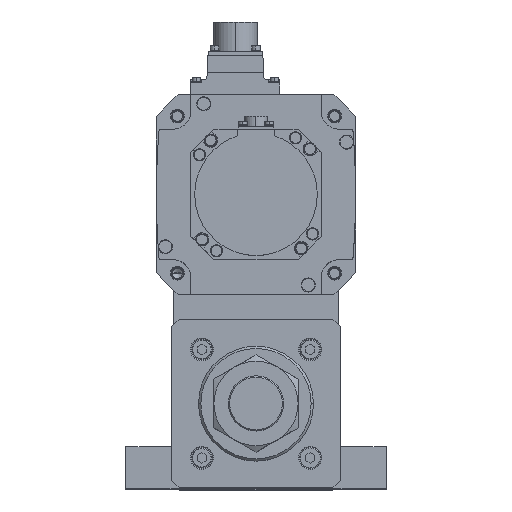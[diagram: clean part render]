
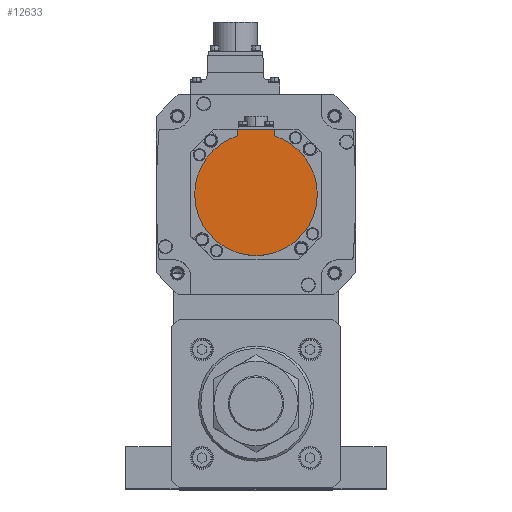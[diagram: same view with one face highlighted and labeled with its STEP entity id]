
A CAD part, top view. The second image highlights one B-rep face of the part: STEP entity #12633.
In plain terms, the highlighted planar face has unit normal (0, 0, 1) as drawn and (0, 0, -1) by its records, which use the part's own axes.
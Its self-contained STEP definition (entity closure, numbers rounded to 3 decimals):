
#270 = CARTESIAN_POINT ( 'NONE',  ( 12., -38.158, -132.5 ) ) ;
#499 = CARTESIAN_POINT ( 'NONE',  ( 0., 0., -132.5 ) ) ;
#2080 = EDGE_CURVE ( 'NONE', #3330, #23565, #5886, .T. ) ;
#2469 = CARTESIAN_POINT ( 'NONE',  ( 0., -42.5, -132.5 ) ) ;
#2696 = ORIENTED_EDGE ( 'NONE', *, *, #14316, .T. ) ;
#2905 = CARTESIAN_POINT ( 'NONE',  ( 40., 0., -132.5 ) ) ;
#3330 = VERTEX_POINT ( 'NONE', #25511 ) ;
#3530 = ORIENTED_EDGE ( 'NONE', *, *, #14489, .F. ) ;
#3909 = CARTESIAN_POINT ( 'NONE',  ( 0., -1.249, -132.5 ) ) ;
#5497 = AXIS2_PLACEMENT_3D ( 'NONE', #31799, #28398, #34623 ) ;
#5886 = LINE ( 'NONE', #2469, #33707 ) ;
#5895 = DIRECTION ( 'NONE',  ( 1., 0., 0. ) ) ;
#6402 = DIRECTION ( 'NONE',  ( 1., 0., 0. ) ) ;
#7009 = AXIS2_PLACEMENT_3D ( 'NONE', #499, #29822, #5895 ) ;
#7140 = CARTESIAN_POINT ( 'NONE',  ( -12., -38.158, -132.5 ) ) ;
#7166 = VECTOR ( 'NONE', #14322, 1000. ) ;
#7675 = ORIENTED_EDGE ( 'NONE', *, *, #27850, .F. ) ;
#8123 = FACE_OUTER_BOUND ( 'NONE', #10089, .T. ) ;
#8606 = VERTEX_POINT ( 'NONE', #7140 ) ;
#9613 = CARTESIAN_POINT ( 'NONE',  ( 12., -1.249, -132.5 ) ) ;
#9690 = LINE ( 'NONE', #17373, #7166 ) ;
#10089 = EDGE_LOOP ( 'NONE', ( #2696, #3530, #28453, #12010, #7675, #31526 ) ) ;
#12010 = ORIENTED_EDGE ( 'NONE', *, *, #14224, .F. ) ;
#12633 = ADVANCED_FACE ( 'NONE', ( #8123 ), #19964, .F. ) ;
#14224 = EDGE_CURVE ( 'NONE', #33294, #32775, #19409, .T. ) ;
#14316 = EDGE_CURVE ( 'NONE', #23565, #8606, #9690, .T. ) ;
#14322 = DIRECTION ( 'NONE',  ( 0., 1., 0. ) ) ;
#14489 = EDGE_CURVE ( 'NONE', #34765, #8606, #19860, .T. ) ;
#15333 = DIRECTION ( 'NONE',  ( 0., 1., 0. ) ) ;
#16102 = AXIS2_PLACEMENT_3D ( 'NONE', #33687, #31098, #17952 ) ;
#17373 = CARTESIAN_POINT ( 'NONE',  ( -12., -40.329, -132.5 ) ) ;
#17408 = EDGE_CURVE ( 'NONE', #32775, #34765, #22591, .T. ) ;
#17952 = DIRECTION ( 'NONE',  ( 1., 0., 0. ) ) ;
#19409 = CIRCLE ( 'NONE', #7009, 40. ) ;
#19860 = CIRCLE ( 'NONE', #16102, 40. ) ;
#19964 = PLANE ( 'NONE',  #30225 ) ;
#21199 = DIRECTION ( 'NONE',  ( -1., 0., 0. ) ) ;
#21235 = LINE ( 'NONE', #9613, #34284 ) ;
#22017 = CARTESIAN_POINT ( 'NONE',  ( -12., -42.5, -132.5 ) ) ;
#22591 = CIRCLE ( 'NONE', #5497, 40. ) ;
#22674 = DIRECTION ( 'NONE',  ( 0., 0., 1. ) ) ;
#23565 = VERTEX_POINT ( 'NONE', #22017 ) ;
#25511 = CARTESIAN_POINT ( 'NONE',  ( 12., -42.5, -132.5 ) ) ;
#27850 = EDGE_CURVE ( 'NONE', #3330, #33294, #21235, .T. ) ;
#28398 = DIRECTION ( 'NONE',  ( 0., 0., 1. ) ) ;
#28453 = ORIENTED_EDGE ( 'NONE', *, *, #17408, .F. ) ;
#29822 = DIRECTION ( 'NONE',  ( 0., 0., 1. ) ) ;
#30225 = AXIS2_PLACEMENT_3D ( 'NONE', #3909, #22674, #6402 ) ;
#31098 = DIRECTION ( 'NONE',  ( 0., 0., 1. ) ) ;
#31526 = ORIENTED_EDGE ( 'NONE', *, *, #2080, .T. ) ;
#31799 = CARTESIAN_POINT ( 'NONE',  ( 0., 0., -132.5 ) ) ;
#32775 = VERTEX_POINT ( 'NONE', #2905 ) ;
#33294 = VERTEX_POINT ( 'NONE', #270 ) ;
#33687 = CARTESIAN_POINT ( 'NONE',  ( 0., 0., -132.5 ) ) ;
#33707 = VECTOR ( 'NONE', #21199, 1000. ) ;
#34284 = VECTOR ( 'NONE', #15333, 1000. ) ;
#34623 = DIRECTION ( 'NONE',  ( 1., 0., 0. ) ) ;
#34765 = VERTEX_POINT ( 'NONE', #34768 ) ;
#34768 = CARTESIAN_POINT ( 'NONE',  ( -40., 0., -132.5 ) ) ;
